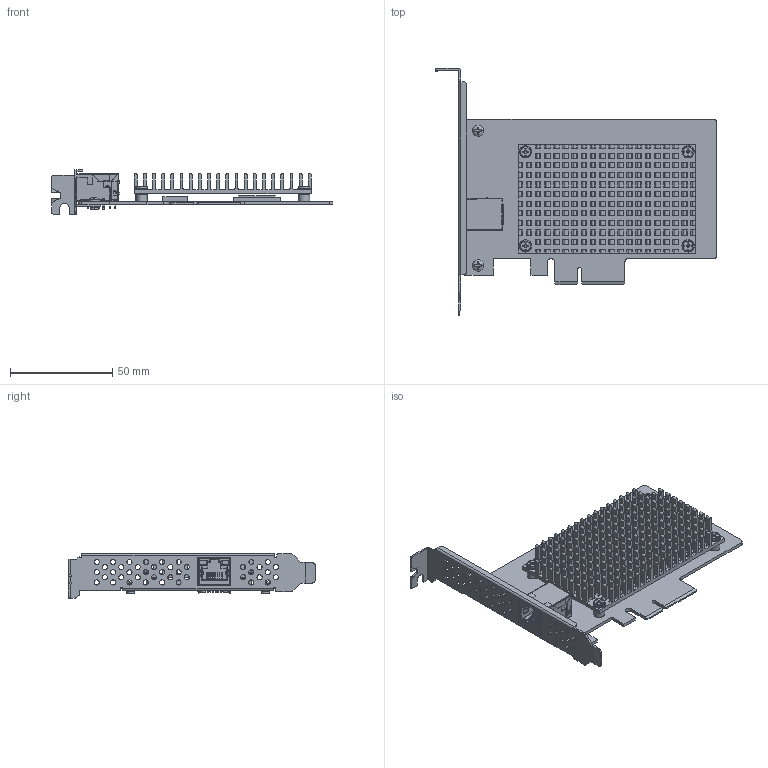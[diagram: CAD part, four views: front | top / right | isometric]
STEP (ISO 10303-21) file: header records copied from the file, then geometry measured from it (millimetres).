
FILE_DESCRIPTION((''),'2;1');
FILE_NAME('HR-PCB-0476-00_1','2025-04-22T17:31:23',('19499'),(''),'CREO PARAMETRIC BY PTC INC, 2020184','CREO PARAMETRIC BY PTC INC, 2020184','');
FILE_SCHEMA(('CONFIG_CONTROL_DESIGN','SHAPE_APPEARANCE_LAYERS_GROUPS'));
Products named in the file (1): HR-PCB-0476-00_1
Bounding box: 137.59 x 120.78 x 21.59 mm (x, y, z)
Volume: 37153.9 mm3; surface area: 54780.7 mm2
Topology: 2 solids, 20 shells, 3792 faces, 10624 edges, 7062 vertices
Faces by surface type: plane 2281, cylinder 1277, bspline 108, torus 62, sphere 38, cone 26
Entity records: 158087 total; most frequent: CARTESIAN_POINT 25309, ORIENTED_EDGE 21184, DIRECTION 20939, PRESENTATION_STYLE_ASSIGNMENT 10641, STYLED_ITEM 10594, CURVE_STYLE 10592, EDGE_CURVE 10592, VECTOR 7213
